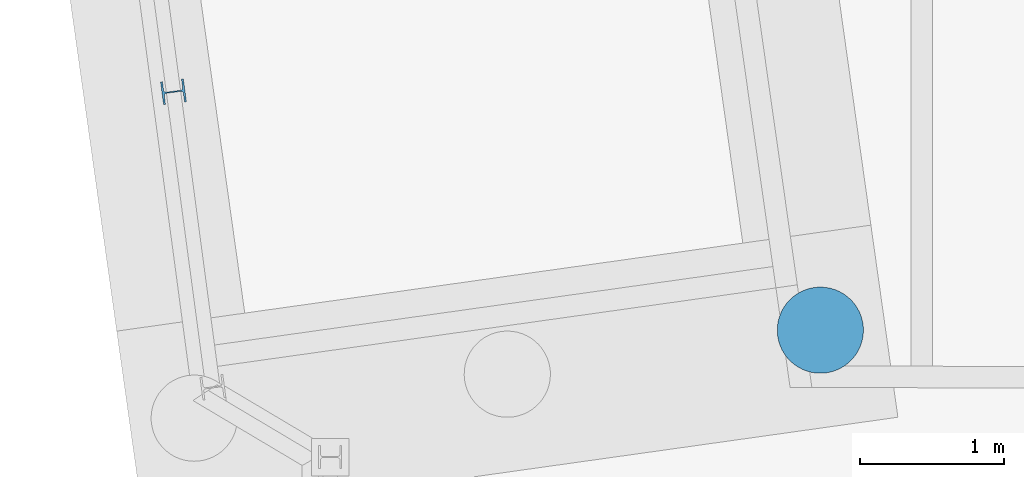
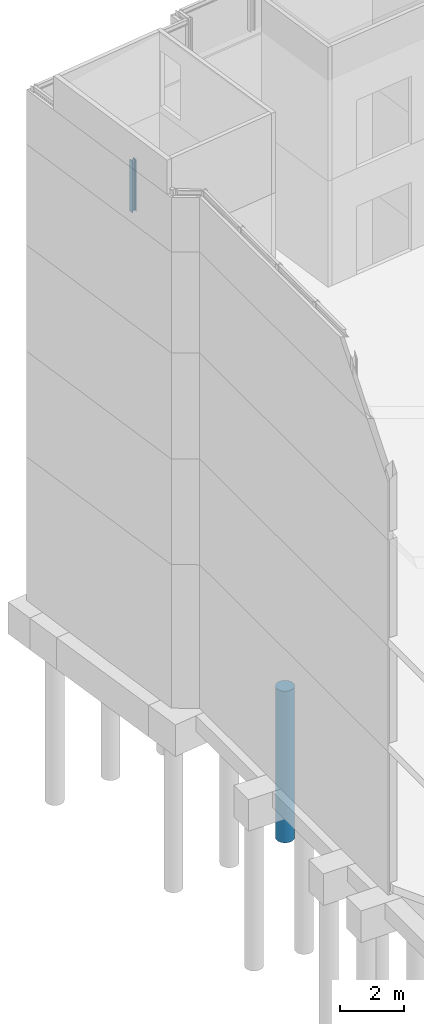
# One storey, part 18 of 82: 2 columns.
"""IFC2X3 building model written with IfcOpenShell, lengths in millimetres."""

import ifcopenshell
import ifcopenshell.guid

model = None  # the IFC model being written
_history = None  # IfcOwnerHistory: only IFC2X3 demands one
_inside = {}  # id of a spatial element -> (the spatial element, [elements in it])
_under = {}  # id of a project, library or spatial element -> (it, [spatial elements below it])
_declared = {}  # id of a project -> (the project, [libraries it declares])
_typed = {}  # id of a type object -> (the type object, [elements of that type])
_made_of = {}  # id of a material, layer set ... -> (it, [elements and type objects made of it])


def new_model(schema):
    """Start an empty IFC model of exactly this schema.

    Asked for "IFC4X3", IfcOpenShell would pick the latest addendum, in which some entities
    have other attributes; the version numbers below select the first issue.
    IFC2X3 requires an IfcOwnerHistory on every rooted entity: one is made here for all.
    """
    global model, _history
    if schema == "IFC4X3":
        model = ifcopenshell.file(schema_version=(4, 3, 0, 0))
    else:
        model = ifcopenshell.file(schema=schema)
    _inside.clear()
    _under.clear()
    _declared.clear()
    _typed.clear()
    _made_of.clear()
    _history = None
    if model.schema == "IFC2X3":
        org = make("IfcOrganization", Name="unknown")
        user = make(
            "IfcPersonAndOrganization",
            ThePerson=make("IfcPerson", FamilyName="unknown"),
            TheOrganization=org,
        )
        app = make(
            "IfcApplication",
            ApplicationDeveloper=org,
            Version="unknown",
            ApplicationFullName="unknown",
            ApplicationIdentifier="unknown",
        )
        _history = make(
            "IfcOwnerHistory",
            OwningUser=user,
            OwningApplication=app,
            ChangeAction="ADDED",
            CreationDate=0,
        )
    return model


def make(cls, **values):
    """One entity of the class cls with the attributes given. An attribute that is None is left unset."""
    return model.create_entity(
        cls, **{name: value for name, value in values.items() if value is not None}
    )


def rooted(cls, **values):
    """An entity with a GlobalId (a new one), such as an element, a storey or a relation."""
    return make(cls, GlobalId=ifcopenshell.guid.new(), OwnerHistory=_history, **values)


def si_unit(unit_type, name, prefix=None):
    """IfcSIUnit, for example si_unit("LENGTHUNIT", "METRE", prefix="MILLI")."""
    return make("IfcSIUnit", UnitType=unit_type, Prefix=prefix, Name=name)


def assignment(units):
    """IfcUnitAssignment: the units of a project."""
    return None if units is None else make("IfcUnitAssignment", Units=units)


def point(xyz):
    """IfcCartesianPoint."""
    return None if xyz is None else make("IfcCartesianPoint", Coordinates=xyz)


def direction(xyz):
    """IfcDirection."""
    return None if xyz is None else make("IfcDirection", DirectionRatios=xyz)


def frame(location, z_axis=None, x_axis=None):
    """IfcAxis2Placement3D, a coordinate frame: its origin and axes. An axis left out is left unset."""
    return make(
        "IfcAxis2Placement3D",
        Location=point(location),
        Axis=direction(z_axis),
        RefDirection=direction(x_axis),
    )


def frame_2d(location, x_axis=None):
    """IfcAxis2Placement2D, a coordinate frame in the plane: its origin and x axis."""
    return make(
        "IfcAxis2Placement2D", Location=point(location), RefDirection=direction(x_axis)
    )


def origin_with_axes():
    """The frame at (0, 0, 0) with the z axis (0, 0, 1) and the x axis (1, 0, 0) written out."""
    return frame((0.0, 0.0, 0.0), z_axis=(0.0, 0.0, 1.0), x_axis=(1.0, 0.0, 0.0))


def place(relative_to, where):
    """IfcLocalPlacement: puts the frame where relative to a parent placement (None: the world)."""
    return make(
        "IfcLocalPlacement", PlacementRelTo=relative_to, RelativePlacement=where
    )


def context(
    kind, dimensions, precision=None, world=None, true_north=None, identifier=None
):
    """IfcGeometricRepresentationContext, for example the 3D "Model" context."""
    return make(
        "IfcGeometricRepresentationContext",
        ContextIdentifier=identifier,
        ContextType=kind,
        CoordinateSpaceDimension=dimensions,
        Precision=precision,
        WorldCoordinateSystem=world,
        TrueNorth=true_north,
    )


def subcontext(parent, identifier, kind, view, scale=None):
    """IfcGeometricRepresentationSubContext, for example "Body" below "Model"."""
    return make(
        "IfcGeometricRepresentationSubContext",
        ContextIdentifier=identifier,
        ContextType=kind,
        ParentContext=parent,
        TargetScale=scale,
        TargetView=view,
    )


def project(units=None, contexts=None):
    """IfcProject with its units and contexts."""
    return rooted(
        "IfcProject",
        Name="project",
        RepresentationContexts=contexts,
        UnitsInContext=assignment(units),
    )


def spatial(cls, under=None, at=None, **own):
    """A site, building, storey or space (cls), placed at a placement, below another one or the project."""
    s = rooted(cls, ObjectPlacement=at, **own)
    if under is not None:
        _under.setdefault(under.id(), (under, []))[1].append(s)
    return s


def profile(cls, at=None, kind="AREA", **sizes):
    """A parametric profile (cls). Its sizes go by their IFC names, for example OverallWidth=200.0."""
    return make(cls, ProfileType=kind, Position=at, **sizes)


def circle(**sizes):
    """IfcCircleProfileDef."""
    return profile("IfcCircleProfileDef", **sizes)


def i_section(**sizes):
    """IfcIShapeProfileDef."""
    return profile("IfcIShapeProfileDef", **sizes)


def extrude(swept, where, along, depth):
    """IfcExtrudedAreaSolid: the profile swept, set in the frame where, extruded along a direction by depth."""
    return make(
        "IfcExtrudedAreaSolid",
        SweptArea=swept,
        Position=where,
        ExtrudedDirection=direction(along),
        Depth=depth,
    )


def shape(context_of_items, identifier, shape_type, items):
    """IfcShapeRepresentation: the items that make up one representation, for example the "Body"."""
    return make(
        "IfcShapeRepresentation",
        ContextOfItems=context_of_items,
        RepresentationIdentifier=identifier,
        RepresentationType=shape_type,
        Items=items,
    )


def material(Name=None, Category=None):
    """IfcMaterial."""
    return make("IfcMaterial", Name=Name, Category=Category)


def made_of(thing, what):
    """Note that an element or type object is made of a material, layer set ...; save() writes the relation."""
    if what is not None:
        _made_of.setdefault(what.id(), (what, []))[1].append(thing)
    return thing


def type_object(cls, material=None, **own):
    """A type object (cls), such as IfcWallType, which elements share."""
    return made_of(rooted(cls, **own), material)


def element(
    cls,
    number,
    at=None,
    inside=None,
    cuts=None,
    type_object=None,
    material=None,
    context=None,
    identifier="Body",
    shape_type=None,
    held_by="IfcProductDefinitionShape",
    body=None,
    shapes=None,
    **own,
):
    """One element of the class cls, such as IfcWall. Its Tag is "e" and its number.

    at: its placement. inside: the storey or other place that contains it. cuts: it is an
    opening in that element (IfcRelVoidsElement). A single representation is given by context,
    identifier, shape_type and body (its items); several are given by shapes. held_by: the class
    of the entity that holds the representations. save() writes the other relations.
    """
    e = rooted(cls, Tag="e%d" % number, ObjectPlacement=at, **own)
    if body is not None:
        shapes = [shape(context, identifier, shape_type, body)]
    if shapes is not None:
        e.Representation = make(held_by, Representations=shapes)
    if inside is not None:
        _inside.setdefault(inside.id(), (inside, []))[1].append(e)
    if cuts is not None:
        rooted(
            "IfcRelVoidsElement", RelatingBuildingElement=cuts, RelatedOpeningElement=e
        )
    if type_object is not None:
        _typed.setdefault(type_object.id(), (type_object, []))[1].append(e)
    return made_of(e, material)


def aggregate(whole, parts):
    """IfcRelAggregates: a whole, such as a stair, and the parts it consists of."""
    return rooted("IfcRelAggregates", RelatingObject=whole, RelatedObjects=parts)


def save(model, path):
    """Write the relations noted so far, then the file.

    IfcRelAggregates (storeys below a building ...), IfcRelContainedInSpatialStructure (elements
    in a storey), IfcRelDefinesByType, IfcRelAssociatesMaterial and IfcRelDeclares: one each for
    every whole, place, type object, material and project.
    """
    for whole, parts in _under.values():
        aggregate(whole, parts)
    for where, things in _inside.values():
        rooted(
            "IfcRelContainedInSpatialStructure",
            RelatedElements=things,
            RelatingStructure=where,
        )
    for kind, things in _typed.values():
        rooted("IfcRelDefinesByType", RelatedObjects=things, RelatingType=kind)
    for what, things in _made_of.values():
        rooted("IfcRelAssociatesMaterial", RelatedObjects=things, RelatingMaterial=what)
    for by, libraries in _declared.values():
        rooted("IfcRelDeclares", RelatingContext=by, RelatedDefinitions=libraries)
    model.write(path)


model = new_model("IFC2X3")

# Units and contexts
model_context = context("Model", 3, precision=1e-05, world=origin_with_axes())
body_context = subcontext(model_context, "Body", "Model", "MODEL_VIEW")
ifc_project = project(units=[si_unit("LENGTHUNIT", "METRE", prefix="MILLI"), si_unit("AREAUNIT", "SQUARE_METRE"), si_unit("VOLUMEUNIT", "CUBIC_METRE"), si_unit("MASSUNIT", "GRAM", prefix="KILO"), si_unit("TIMEUNIT", "SECOND"), si_unit("PLANEANGLEUNIT", "RADIAN"), si_unit("SOLIDANGLEUNIT", "STERADIAN"), si_unit("THERMODYNAMICTEMPERATUREUNIT", "DEGREE_CELSIUS"), si_unit("LUMINOUSINTENSITYUNIT", "LUMEN")], contexts=[model_context])

# Site, building, storey
site_placement = place(None, origin_with_axes())
site = spatial("IfcSite", under=ifc_project, at=site_placement, Name="Undefined", CompositionType="ELEMENT")
building_placement = place(site_placement, origin_with_axes())
building = spatial("IfcBuilding", under=site, at=building_placement, Name="Undefined", CompositionType="ELEMENT")
storey_placement = place(building_placement, origin_with_axes())
storey = spatial("IfcBuildingStorey", under=building, at=storey_placement, Name="Undefined", CompositionType="ELEMENT", Elevation=0.0)

# Columns
ifc_material_1 = material(Name="STEEL/S275JR")
column_type_1 = type_object("IfcColumnType", Name="HEB160", PredefinedType="NOTDEFINED")
column_1_placement = place(storey_placement, frame((-1090.73999939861, 21142.2299998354, 17160.0), z_axis=(0.0, 0.0, 1.0), x_axis=(1.0, 0.0, 0.0)))
element("IfcColumn", 1, at=column_1_placement, inside=storey, type_object=column_type_1, material=ifc_material_1, Name="POTEAU", ObjectType="HEB160", context=body_context, shape_type="SweptSolid", body=[
    extrude(i_section(OverallWidth=160.0, OverallDepth=160.0, WebThickness=8.0, FlangeThickness=13.0, FilletRadius=15.0, at=frame_2d((5.17284206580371e-08, 4.49290382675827e-10), x_axis=(1.0, 0.0))), frame((0.0, 0.0, 1965.0), z_axis=(0.0, -6.50000002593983e-08, -0.999999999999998), x_axis=(0.132171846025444, -0.991226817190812, 0.0)), (0.0, 0.0, 1.0), 1965.0),
])
ifc_material_2 = material(Name="CONCRETE/C25/30")
column_type_2 = type_object("IfcColumnType", Name="D600", PredefinedType="NOTDEFINED")
column_2_placement = place(storey_placement, frame((3410.77656242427, 19483.2844282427, -7175.0), z_axis=(0.0, 0.0, 1.0), x_axis=(1.0, 0.0, 0.0)))
element("IfcColumn", 2, at=column_2_placement, inside=storey, type_object=column_type_2, material=ifc_material_2, Name="PIEU", ObjectType="D600", context=body_context, shape_type="SweptSolid", body=[
    extrude(circle(Radius=300.0, at=frame_2d((5.17284206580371e-08, 4.49290382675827e-10), x_axis=(1.0, 0.0))), frame((0.0, 0.0, 5750.0), z_axis=(0.0, -6.50000002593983e-08, -0.999999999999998), x_axis=(-0.99121555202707, -0.132256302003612, 0.0)), (0.0, 0.0, 1.0), 5750.0),
])

save(model, "model.ifc")
